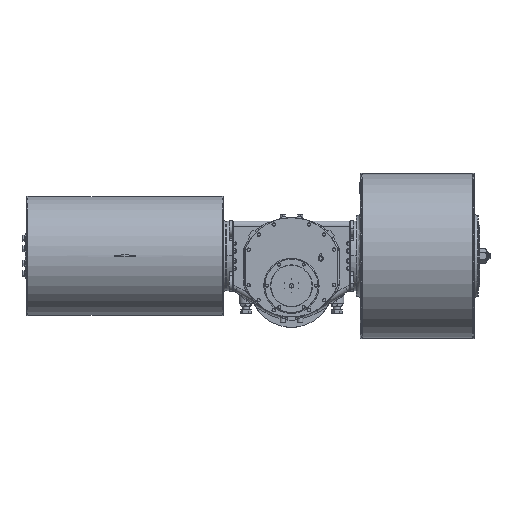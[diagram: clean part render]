
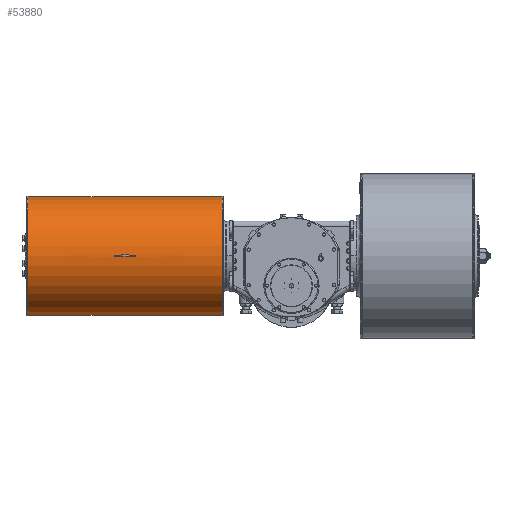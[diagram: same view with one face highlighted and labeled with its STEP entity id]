
A CAD part, top view. The second image highlights one B-rep face of the part: STEP entity #53880.
In plain terms, the highlighted cylindrical face has radius 340 mm (diameter 680 mm), a partial arc.
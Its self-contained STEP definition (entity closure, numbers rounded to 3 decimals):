
#903 = LINE ( 'NONE', #61679, #88955 ) ;
#1356 = CARTESIAN_POINT ( 'NONE',  ( -1502., -169., 138. ) ) ;
#3433 = VECTOR ( 'NONE', #23634, 1000. ) ;
#3634 = ORIENTED_EDGE ( 'NONE', *, *, #65120, .F. ) ;
#3748 = EDGE_CURVE ( 'NONE', #31466, #26956, #88851, .T. ) ;
#3831 = CARTESIAN_POINT ( 'NONE',  ( -1508.115, 511., 138. ) ) ;
#3974 = VERTEX_POINT ( 'NONE', #46502 ) ;
#4119 = CIRCLE ( 'NONE', #51537, 340. ) ;
#5272 = DIRECTION ( 'NONE',  ( 0., 1., 0. ) ) ;
#5494 = EDGE_CURVE ( 'NONE', #6633, #78530, #56269, .T. ) ;
#6633 = VERTEX_POINT ( 'NONE', #37680 ) ;
#7833 = DIRECTION ( 'NONE',  ( -1., 0., 0. ) ) ;
#8407 = CARTESIAN_POINT ( 'NONE',  ( -892., 171., 138. ) ) ;
#9056 = ORIENTED_EDGE ( 'NONE', *, *, #37070, .T. ) ;
#9274 = DIRECTION ( 'NONE',  ( 1., 0., 0. ) ) ;
#9415 = CARTESIAN_POINT ( 'NONE',  ( -1502., 171., 138. ) ) ;
#9862 = DIRECTION ( 'NONE',  ( 0., 1., 0. ) ) ;
#10027 = ORIENTED_EDGE ( 'NONE', *, *, #43003, .T. ) ;
#11001 = EDGE_LOOP ( 'NONE', ( #21036, #47544, #10027, #80003, #23708, #3634 ) ) ;
#13721 = EDGE_CURVE ( 'NONE', #78530, #3974, #4119, .T. ) ;
#14149 = CARTESIAN_POINT ( 'NONE',  ( -1012., 171., 138. ) ) ;
#15126 = CARTESIAN_POINT ( 'NONE',  ( -1012., 176., 477.963 ) ) ;
#15219 = DIRECTION ( 'NONE',  ( 1., 0., 0. ) ) ;
#15750 = DIRECTION ( 'NONE',  ( 1., 0., 0. ) ) ;
#17343 = LINE ( 'NONE', #51565, #3433 ) ;
#18176 = VERTEX_POINT ( 'NONE', #38179 ) ;
#19034 = EDGE_CURVE ( 'NONE', #75566, #31466, #69773, .T. ) ;
#21036 = ORIENTED_EDGE ( 'NONE', *, *, #19034, .T. ) ;
#21537 = DIRECTION ( 'NONE',  ( 0., -1., 0. ) ) ;
#23634 = DIRECTION ( 'NONE',  ( 1., 0., 0. ) ) ;
#23708 = ORIENTED_EDGE ( 'NONE', *, *, #71029, .T. ) ;
#24262 = CYLINDRICAL_SURFACE ( 'NONE', #51018, 340. ) ;
#26956 = VERTEX_POINT ( 'NONE', #15126 ) ;
#27594 = CARTESIAN_POINT ( 'NONE',  ( -892., 176., 477.963 ) ) ;
#27654 = DIRECTION ( 'NONE',  ( 0., 0., 1. ) ) ;
#31466 = VERTEX_POINT ( 'NONE', #64662 ) ;
#32496 = ORIENTED_EDGE ( 'NONE', *, *, #13721, .T. ) ;
#35223 = VERTEX_POINT ( 'NONE', #3831 ) ;
#37070 = EDGE_CURVE ( 'NONE', #35223, #6633, #79957, .T. ) ;
#37680 = CARTESIAN_POINT ( 'NONE',  ( -1508.115, -169., 138. ) ) ;
#38179 = CARTESIAN_POINT ( 'NONE',  ( -892., 171., 478. ) ) ;
#38915 = LINE ( 'NONE', #59154, #71966 ) ;
#40099 = CARTESIAN_POINT ( 'NONE',  ( -395.885, 171., 138. ) ) ;
#42087 = DIRECTION ( 'NONE',  ( -1., 0., 0. ) ) ;
#42221 = CARTESIAN_POINT ( 'NONE',  ( -395.885, -169., 138. ) ) ;
#43003 = EDGE_CURVE ( 'NONE', #26956, #82514, #903, .T. ) ;
#46502 = CARTESIAN_POINT ( 'NONE',  ( -395.885, 511., 138. ) ) ;
#47544 = ORIENTED_EDGE ( 'NONE', *, *, #3748, .T. ) ;
#48199 = AXIS2_PLACEMENT_3D ( 'NONE', #14149, #7833, #27654 ) ;
#48682 = ORIENTED_EDGE ( 'NONE', *, *, #5494, .T. ) ;
#50825 = FACE_BOUND ( 'NONE', #11001, .T. ) ;
#51018 = AXIS2_PLACEMENT_3D ( 'NONE', #9415, #71957, #9862 ) ;
#51537 = AXIS2_PLACEMENT_3D ( 'NONE', #40099, #69321, #68876 ) ;
#51565 = CARTESIAN_POINT ( 'NONE',  ( -1502., 511., 138. ) ) ;
#53880 = ADVANCED_FACE ( 'NONE', ( #50825, #71065 ), #24262, .T. ) ;
#56034 = DIRECTION ( 'NONE',  ( 0., 0., 1. ) ) ;
#56269 = LINE ( 'NONE', #1356, #80094 ) ;
#57029 = AXIS2_PLACEMENT_3D ( 'NONE', #76882, #15219, #21537 ) ;
#58837 = CARTESIAN_POINT ( 'NONE',  ( -892., 166., 477.963 ) ) ;
#59154 = CARTESIAN_POINT ( 'NONE',  ( -1502., 166., 477.963 ) ) ;
#61679 = CARTESIAN_POINT ( 'NONE',  ( -1502., 176., 477.963 ) ) ;
#61989 = EDGE_LOOP ( 'NONE', ( #9056, #48682, #32496, #62605 ) ) ;
#62605 = ORIENTED_EDGE ( 'NONE', *, *, #74903, .F. ) ;
#64189 = DIRECTION ( 'NONE',  ( 0., -1., 0. ) ) ;
#64662 = CARTESIAN_POINT ( 'NONE',  ( -1012., 171., 478. ) ) ;
#65120 = EDGE_CURVE ( 'NONE', #75566, #81075, #38915, .T. ) ;
#67362 = DIRECTION ( 'NONE',  ( 1., 0., 0. ) ) ;
#68290 = AXIS2_PLACEMENT_3D ( 'NONE', #8407, #9274, #64189 ) ;
#68315 = CARTESIAN_POINT ( 'NONE',  ( -1012., 166., 477.963 ) ) ;
#68876 = DIRECTION ( 'NONE',  ( 0., 1., 0. ) ) ;
#69321 = DIRECTION ( 'NONE',  ( -1., 0., 0. ) ) ;
#69773 = CIRCLE ( 'NONE', #48199, 340. ) ;
#69784 = CIRCLE ( 'NONE', #68290, 340. ) ;
#71029 = EDGE_CURVE ( 'NONE', #18176, #81075, #69784, .T. ) ;
#71065 = FACE_OUTER_BOUND ( 'NONE', #61989, .T. ) ;
#71957 = DIRECTION ( 'NONE',  ( 1., 0., 0. ) ) ;
#71966 = VECTOR ( 'NONE', #79875, 1000. ) ;
#73004 = AXIS2_PLACEMENT_3D ( 'NONE', #76291, #42087, #56034 ) ;
#74903 = EDGE_CURVE ( 'NONE', #35223, #3974, #17343, .T. ) ;
#75566 = VERTEX_POINT ( 'NONE', #68315 ) ;
#76291 = CARTESIAN_POINT ( 'NONE',  ( -1012., 171., 138. ) ) ;
#76882 = CARTESIAN_POINT ( 'NONE',  ( -892., 171., 138. ) ) ;
#78530 = VERTEX_POINT ( 'NONE', #42221 ) ;
#79632 = EDGE_CURVE ( 'NONE', #82514, #18176, #88664, .T. ) ;
#79875 = DIRECTION ( 'NONE',  ( 1., 0., 0. ) ) ;
#79957 = CIRCLE ( 'NONE', #85655, 340. ) ;
#80003 = ORIENTED_EDGE ( 'NONE', *, *, #79632, .T. ) ;
#80094 = VECTOR ( 'NONE', #15750, 1000. ) ;
#81075 = VERTEX_POINT ( 'NONE', #58837 ) ;
#82393 = DIRECTION ( 'NONE',  ( 1., 0., 0. ) ) ;
#82514 = VERTEX_POINT ( 'NONE', #27594 ) ;
#85655 = AXIS2_PLACEMENT_3D ( 'NONE', #86750, #67362, #5272 ) ;
#86750 = CARTESIAN_POINT ( 'NONE',  ( -1508.115, 171., 138. ) ) ;
#88664 = CIRCLE ( 'NONE', #57029, 340. ) ;
#88851 = CIRCLE ( 'NONE', #73004, 340. ) ;
#88955 = VECTOR ( 'NONE', #82393, 1000. ) ;
